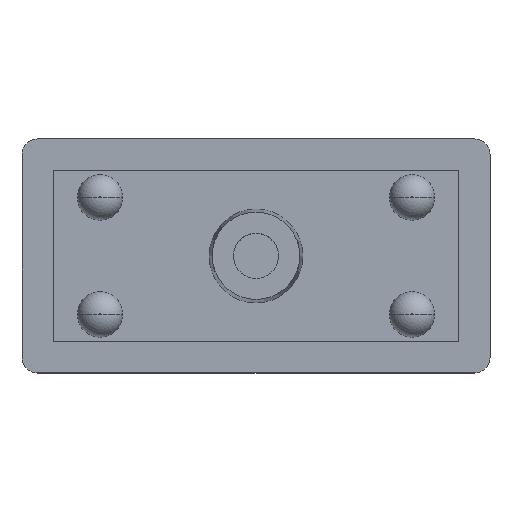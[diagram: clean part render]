
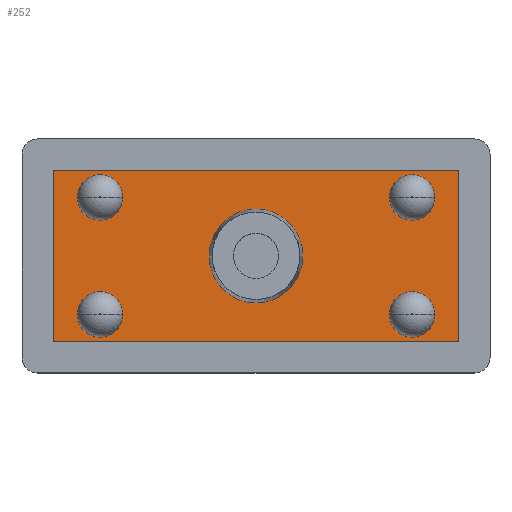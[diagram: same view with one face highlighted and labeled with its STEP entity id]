
A CAD part, top view. The second image highlights one B-rep face of the part: STEP entity #252.
In plain terms, the highlighted planar face has unit normal (0, 0, 1).
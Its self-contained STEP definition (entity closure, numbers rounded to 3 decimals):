
#6 = FACE_OUTER_BOUND ( 'NONE', #211, .T. ) ;
#7 = EDGE_CURVE ( 'NONE', #1181, #235, #726, .T. ) ;
#11 = AXIS2_PLACEMENT_3D ( 'NONE', #595, #504, #1185 ) ;
#40 = VECTOR ( 'NONE', #1118, 1000. ) ;
#43 = CARTESIAN_POINT ( 'NONE',  ( 0., 0., 1.5 ) ) ;
#58 = CIRCLE ( 'NONE', #123, 1.45 ) ;
#78 = CARTESIAN_POINT ( 'NONE',  ( -10., -3.75, 1.5 ) ) ;
#80 = VERTEX_POINT ( 'NONE', #447 ) ;
#85 = DIRECTION ( 'NONE',  ( 0., 0., 1. ) ) ;
#89 = DIRECTION ( 'NONE',  ( 0., 0., 1. ) ) ;
#101 = ORIENTED_EDGE ( 'NONE', *, *, #1262, .F. ) ;
#106 = CARTESIAN_POINT ( 'NONE',  ( -13., 5.5, 1.5 ) ) ;
#112 = DIRECTION ( 'NONE',  ( 0., 0., 1. ) ) ;
#114 = DIRECTION ( 'NONE',  ( -1., 0., 0. ) ) ;
#123 = AXIS2_PLACEMENT_3D ( 'NONE', #1421, #753, #114 ) ;
#145 = FACE_BOUND ( 'NONE', #467, .T. ) ;
#176 = AXIS2_PLACEMENT_3D ( 'NONE', #290, #89, #1378 ) ;
#183 = AXIS2_PLACEMENT_3D ( 'NONE', #325, #1094, #428 ) ;
#192 = VERTEX_POINT ( 'NONE', #670 ) ;
#211 = EDGE_LOOP ( 'NONE', ( #758, #1038, #1192, #376 ) ) ;
#223 = CARTESIAN_POINT ( 'NONE',  ( 8.55, 3.75, 1.5 ) ) ;
#224 = CIRCLE ( 'NONE', #1055, 3. ) ;
#235 = VERTEX_POINT ( 'NONE', #996 ) ;
#236 = CIRCLE ( 'NONE', #183, 1.45 ) ;
#244 = EDGE_CURVE ( 'NONE', #367, #1416, #329, .T. ) ;
#252 = ADVANCED_FACE ( 'NONE', ( #1164, #291, #145, #902, #868, #6 ), #1338, .F. ) ;
#253 = LINE ( 'NONE', #1237, #1134 ) ;
#259 = DIRECTION ( 'NONE',  ( 0., 0., 1. ) ) ;
#263 = CARTESIAN_POINT ( 'NONE',  ( 13., -5.5, 1.5 ) ) ;
#264 = EDGE_CURVE ( 'NONE', #1416, #1181, #253, .T. ) ;
#286 = EDGE_CURVE ( 'NONE', #1017, #554, #224, .T. ) ;
#290 = CARTESIAN_POINT ( 'NONE',  ( -10., 3.75, 1.5 ) ) ;
#291 = FACE_BOUND ( 'NONE', #380, .T. ) ;
#298 = EDGE_LOOP ( 'NONE', ( #841, #313 ) ) ;
#313 = ORIENTED_EDGE ( 'NONE', *, *, #481, .F. ) ;
#314 = CIRCLE ( 'NONE', #176, 1.45 ) ;
#325 = CARTESIAN_POINT ( 'NONE',  ( -10., 3.75, 1.5 ) ) ;
#329 = LINE ( 'NONE', #1314, #40 ) ;
#339 = EDGE_CURVE ( 'NONE', #620, #1059, #1069, .T. ) ;
#367 = VERTEX_POINT ( 'NONE', #263 ) ;
#376 = ORIENTED_EDGE ( 'NONE', *, *, #596, .T. ) ;
#380 = EDGE_LOOP ( 'NONE', ( #671, #854 ) ) ;
#422 = VECTOR ( 'NONE', #622, 1000. ) ;
#428 = DIRECTION ( 'NONE',  ( -1., 0., 0. ) ) ;
#447 = CARTESIAN_POINT ( 'NONE',  ( 8.55, -3.75, 1.5 ) ) ;
#467 = EDGE_LOOP ( 'NONE', ( #1246, #775 ) ) ;
#481 = EDGE_CURVE ( 'NONE', #554, #1017, #1117, .T. ) ;
#489 = ORIENTED_EDGE ( 'NONE', *, *, #1402, .F. ) ;
#504 = DIRECTION ( 'NONE',  ( 0., 0., 1. ) ) ;
#505 = CARTESIAN_POINT ( 'NONE',  ( 3., 0., 1.5 ) ) ;
#519 = DIRECTION ( 'NONE',  ( 0., 0., 1. ) ) ;
#523 = EDGE_CURVE ( 'NONE', #192, #80, #58, .T. ) ;
#536 = VERTEX_POINT ( 'NONE', #1311 ) ;
#538 = EDGE_CURVE ( 'NONE', #536, #683, #236, .T. ) ;
#554 = VERTEX_POINT ( 'NONE', #505 ) ;
#579 = ORIENTED_EDGE ( 'NONE', *, *, #523, .F. ) ;
#595 = CARTESIAN_POINT ( 'NONE',  ( 10., -3.75, 1.5 ) ) ;
#596 = EDGE_CURVE ( 'NONE', #235, #367, #1307, .T. ) ;
#612 = CARTESIAN_POINT ( 'NONE',  ( -13., -5.5, 1.5 ) ) ;
#618 = DIRECTION ( 'NONE',  ( 0., -1., 0. ) ) ;
#620 = VERTEX_POINT ( 'NONE', #767 ) ;
#622 = DIRECTION ( 'NONE',  ( 1., 0., 0. ) ) ;
#628 = CARTESIAN_POINT ( 'NONE',  ( -11.45, -3.75, 1.5 ) ) ;
#656 = CIRCLE ( 'NONE', #975, 1.45 ) ;
#659 = EDGE_LOOP ( 'NONE', ( #489, #579 ) ) ;
#665 = DIRECTION ( 'NONE',  ( 0., 0., -1. ) ) ;
#668 = CARTESIAN_POINT ( 'NONE',  ( 0., 0., 1.5 ) ) ;
#670 = CARTESIAN_POINT ( 'NONE',  ( 11.45, -3.75, 1.5 ) ) ;
#671 = ORIENTED_EDGE ( 'NONE', *, *, #958, .F. ) ;
#683 = VERTEX_POINT ( 'NONE', #1186 ) ;
#684 = DIRECTION ( 'NONE',  ( 0., 0., 1. ) ) ;
#726 = LINE ( 'NONE', #612, #832 ) ;
#750 = DIRECTION ( 'NONE',  ( -1., 0., 0. ) ) ;
#751 = CIRCLE ( 'NONE', #11, 1.45 ) ;
#753 = DIRECTION ( 'NONE',  ( 0., 0., 1. ) ) ;
#758 = ORIENTED_EDGE ( 'NONE', *, *, #244, .T. ) ;
#767 = CARTESIAN_POINT ( 'NONE',  ( -8.55, -3.75, 1.5 ) ) ;
#775 = ORIENTED_EDGE ( 'NONE', *, *, #339, .F. ) ;
#785 = VERTEX_POINT ( 'NONE', #223 ) ;
#832 = VECTOR ( 'NONE', #618, 1000. ) ;
#841 = ORIENTED_EDGE ( 'NONE', *, *, #286, .F. ) ;
#854 = ORIENTED_EDGE ( 'NONE', *, *, #1351, .F. ) ;
#868 = FACE_BOUND ( 'NONE', #298, .T. ) ;
#899 = DIRECTION ( 'NONE',  ( -1., 0., 0. ) ) ;
#902 = FACE_BOUND ( 'NONE', #1221, .T. ) ;
#903 = EDGE_CURVE ( 'NONE', #1059, #620, #656, .T. ) ;
#913 = CARTESIAN_POINT ( 'NONE',  ( -10., -3.75, 1.5 ) ) ;
#934 = DIRECTION ( 'NONE',  ( 0., 0., 1. ) ) ;
#944 = VERTEX_POINT ( 'NONE', #1283 ) ;
#958 = EDGE_CURVE ( 'NONE', #785, #944, #1243, .T. ) ;
#975 = AXIS2_PLACEMENT_3D ( 'NONE', #78, #85, #1214 ) ;
#981 = AXIS2_PLACEMENT_3D ( 'NONE', #668, #665, #750 ) ;
#995 = AXIS2_PLACEMENT_3D ( 'NONE', #1264, #934, #1058 ) ;
#996 = CARTESIAN_POINT ( 'NONE',  ( -13., -5.5, 1.5 ) ) ;
#1017 = VERTEX_POINT ( 'NONE', #1092 ) ;
#1030 = DIRECTION ( 'NONE',  ( -1., 0., 0. ) ) ;
#1038 = ORIENTED_EDGE ( 'NONE', *, *, #264, .T. ) ;
#1055 = AXIS2_PLACEMENT_3D ( 'NONE', #43, #684, #1349 ) ;
#1058 = DIRECTION ( 'NONE',  ( -1., 0., 0. ) ) ;
#1059 = VERTEX_POINT ( 'NONE', #628 ) ;
#1069 = CIRCLE ( 'NONE', #1343, 1.45 ) ;
#1092 = CARTESIAN_POINT ( 'NONE',  ( -3., 0., 1.5 ) ) ;
#1094 = DIRECTION ( 'NONE',  ( 0., 0., 1. ) ) ;
#1116 = AXIS2_PLACEMENT_3D ( 'NONE', #1344, #112, #899 ) ;
#1117 = CIRCLE ( 'NONE', #1168, 3. ) ;
#1118 = DIRECTION ( 'NONE',  ( 0., 1., 0. ) ) ;
#1127 = DIRECTION ( 'NONE',  ( -1., 0., 0. ) ) ;
#1134 = VECTOR ( 'NONE', #1127, 1000. ) ;
#1154 = ORIENTED_EDGE ( 'NONE', *, *, #538, .F. ) ;
#1164 = FACE_BOUND ( 'NONE', #659, .T. ) ;
#1168 = AXIS2_PLACEMENT_3D ( 'NONE', #1193, #519, #1305 ) ;
#1170 = CARTESIAN_POINT ( 'NONE',  ( 13., 5.5, 1.5 ) ) ;
#1181 = VERTEX_POINT ( 'NONE', #106 ) ;
#1185 = DIRECTION ( 'NONE',  ( -1., 0., 0. ) ) ;
#1186 = CARTESIAN_POINT ( 'NONE',  ( -11.45, 3.75, 1.5 ) ) ;
#1192 = ORIENTED_EDGE ( 'NONE', *, *, #7, .T. ) ;
#1193 = CARTESIAN_POINT ( 'NONE',  ( 0., 0., 1.5 ) ) ;
#1214 = DIRECTION ( 'NONE',  ( -1., 0., 0. ) ) ;
#1221 = EDGE_LOOP ( 'NONE', ( #101, #1154 ) ) ;
#1237 = CARTESIAN_POINT ( 'NONE',  ( -13., 5.5, 1.5 ) ) ;
#1243 = CIRCLE ( 'NONE', #1116, 1.45 ) ;
#1246 = ORIENTED_EDGE ( 'NONE', *, *, #903, .F. ) ;
#1262 = EDGE_CURVE ( 'NONE', #683, #536, #314, .T. ) ;
#1264 = CARTESIAN_POINT ( 'NONE',  ( 10., 3.75, 1.5 ) ) ;
#1283 = CARTESIAN_POINT ( 'NONE',  ( 11.45, 3.75, 1.5 ) ) ;
#1302 = CARTESIAN_POINT ( 'NONE',  ( -13., -5.5, 1.5 ) ) ;
#1305 = DIRECTION ( 'NONE',  ( -1., 0., 0. ) ) ;
#1307 = LINE ( 'NONE', #1302, #422 ) ;
#1311 = CARTESIAN_POINT ( 'NONE',  ( -8.55, 3.75, 1.5 ) ) ;
#1314 = CARTESIAN_POINT ( 'NONE',  ( 13., -5.5, 1.5 ) ) ;
#1338 = PLANE ( 'NONE',  #981 ) ;
#1343 = AXIS2_PLACEMENT_3D ( 'NONE', #913, #259, #1030 ) ;
#1344 = CARTESIAN_POINT ( 'NONE',  ( 10., 3.75, 1.5 ) ) ;
#1349 = DIRECTION ( 'NONE',  ( -1., 0., 0. ) ) ;
#1351 = EDGE_CURVE ( 'NONE', #944, #785, #1377, .T. ) ;
#1377 = CIRCLE ( 'NONE', #995, 1.45 ) ;
#1378 = DIRECTION ( 'NONE',  ( -1., 0., 0. ) ) ;
#1402 = EDGE_CURVE ( 'NONE', #80, #192, #751, .T. ) ;
#1416 = VERTEX_POINT ( 'NONE', #1170 ) ;
#1421 = CARTESIAN_POINT ( 'NONE',  ( 10., -3.75, 1.5 ) ) ;
